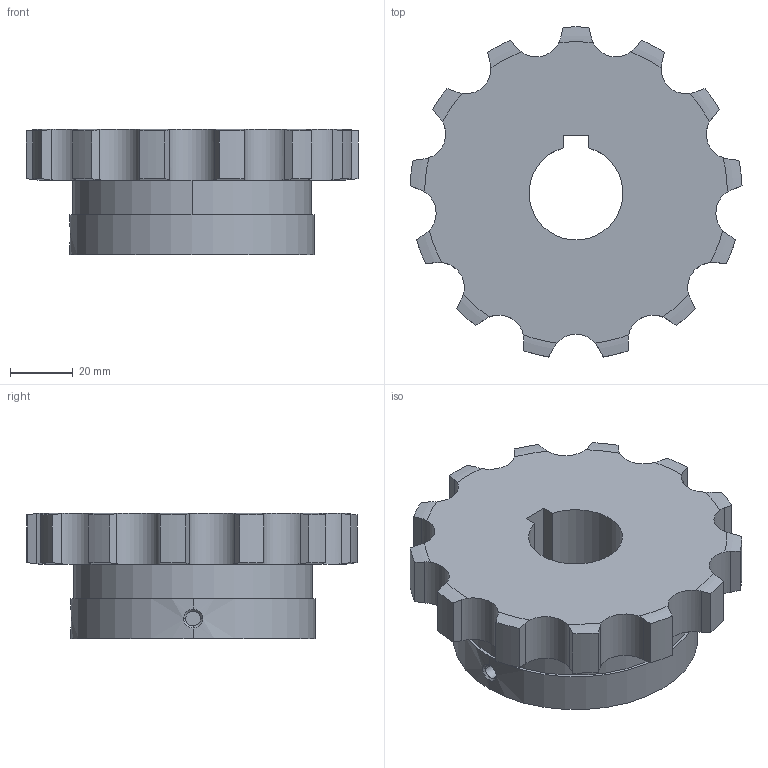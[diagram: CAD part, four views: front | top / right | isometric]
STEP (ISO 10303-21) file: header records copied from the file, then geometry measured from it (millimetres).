
FILE_DESCRIPTION((''),'2;1');
FILE_NAME('510-501-3013_PRT','2021-02-13T',('Brieden'),('Brieden'),'PRO/ENGINEER BY PARAMETRIC TECHNOLOGY CORPORATION, 2010160','PRO/ENGINEER BY PARAMETRIC TECHNOLOGY CORPORATION, 2010160','');
FILE_SCHEMA(('AUTOMOTIVE_DESIGN { 1 0 10303 214 1 1 1 1 }'));
Length unit declared in the file: millimetre
Products named in the file (1): 510-501-3013_PRT
Bounding box: 106.02 x 105.39 x 40 mm (x, y, z)
Volume: 203638.1 mm3; surface area: 31037.9 mm2
Topology: 1 solids, 1 shells, 102 faces, 285 edges, 188 vertices
Faces by surface type: cylinder 61, torus 26, plane 9, bspline 6
Entity records: 4990 total; most frequent: CARTESIAN_POINT 1596, ORIENTED_EDGE 570, DIRECTION 453, PRESENTATION_STYLE_ASSIGNMENT 286, STYLED_ITEM 286, CURVE_STYLE 285, EDGE_CURVE 285, AXIS2_PLACEMENT_3D 188
